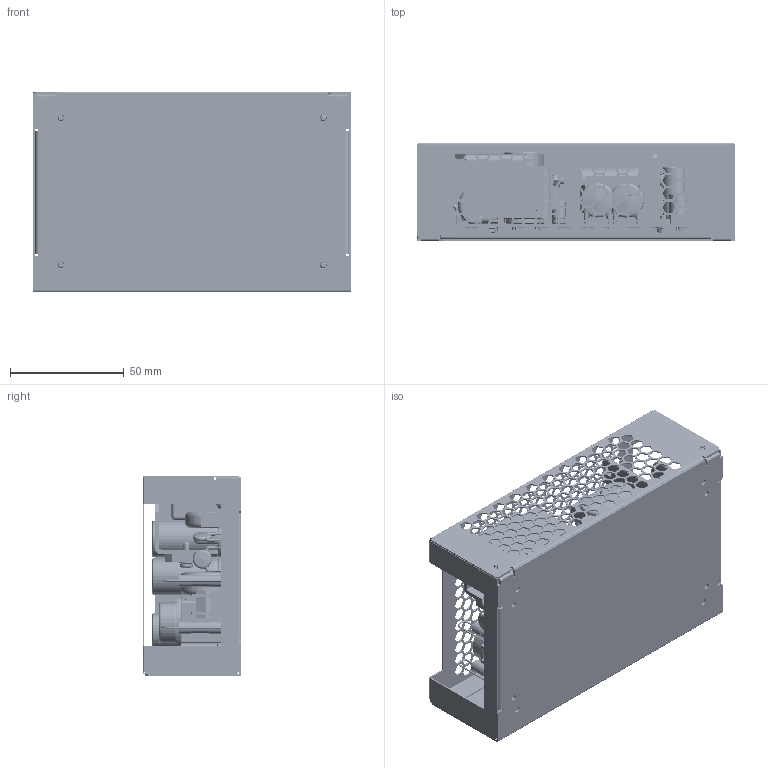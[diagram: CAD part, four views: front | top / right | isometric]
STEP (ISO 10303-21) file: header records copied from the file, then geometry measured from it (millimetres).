
FILE_DESCRIPTION (( 'STEP AP214' ), '1' );
FILE_NAME ('GCS350-C WITH 6 POS CONN.STEP', '2017-10-10T16:31:33', ( '' ), ( '' ), 'SwSTEP 2.0', 'SolidWorks 2016', '' );
FILE_SCHEMA (( 'AUTOMOTIVE_DESIGN' ));
Length unit declared in the file: inch
Products named in the file (45): Screw_Sq Cone_no 4_01_.375"; GCS350-C WITH 6 POS CONN; Capacitor Disc_0.500 D_0.400" C; Inductor Toroid_18mm OD_8.0 mm Width; Bridge Rectifier_GBU6K_Lead trimed; Base choke_.90 D; CAP FILM_17x11x21MM_15LS; Capacitor Elec_16mm D_30mm; Pot_Top adj_Type1_01; Capacitor Film_12x5mm_10 LS; Capacitor Film_18x11mm_15 LS_19mm H; MOV-S10K140E2; CAP FILM_17x5x11MM_15LS; Capacitor Elec_08mm D_20mm H; FUSE-0; Capacitor Elec_06mm D_10mm H; Inductor Toroid_18.0mm OD_7mm Width; Screw_Flat Head Phillips (Metric)_(1314)_M3 x 8; Inductor Toroid_20.0mm OD_10mm Width; Capacitor Disc_0.300 D X .40 LS; Nut_Keps_4-40_Star_01; Faston .25 X .032; Screw_Sq Cone_no 4_01_.250"; Xfmr_GCS150; TO220_2P_01; Screw_Flat Head Phillips (Metric)_(1211)_M2.5 x 4; L4; Conn_JST_S10B-PHDSS-B_Vertical; 10014368A0; 1001720901; CON MLX  .156 3P; Screw_PHP_M3 Sq Cone_01_8mm; 1001720802; Choke Output Rod; Washer_Square_Cone_M3_8mm od_01; 1001720602; Conn_MLX_KK100_Hdr_02P; SCREW_PPH_M3_01_8mm; 10006903A0; Capacitor Elec_10mm D_25mm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
Assembly tree (78 placements, depth 3):
  GCS350-C WITH 6 POS CONN
    10014573B0
    10006903A0
    GCS350 WITH 6 POS CONN
      1001720602
      1001720802
      1001720901
      L4
      Xfmr_GCS150
      Faston .25 X .032
      Capacitor Disc_0.300 D X .40 LS  x3
      Inductor Toroid_20.0mm OD_10mm Width
      Inductor Toroid_18.0mm OD_7mm Width
      FUSE-0  x2
      CAP FILM_17x5x11MM_15LS
      Capacitor Film_18x11mm_15 LS_19mm H  x2
      Pot_Top adj_Type1_01
      CAP FILM_17x11x21MM_15LS
      Bridge Rectifier_GBU6K_Lead trimed
      Capacitor Disc_0.500 D_0.400" C  x4
      Capacitor Elec_08mm D_13mm H  x2
      TO220_3P_01  x5
      Capacitor Elec_10mm D_25mm  x4
      Conn_MLX_KK100_Hdr_02P
      Choke Output Rod
      CON MLX  .156 3P
      Conn_JST_S10B-PHDSS-B_Vertical
      TO220_2P_01
      Screw_Sq Cone_no 4_01_.250"  x2
      Nut_Keps_4-40_Star_01  x6
      Screw_Flat Head Phillips (Metric)_(1314)_M3 x 8  x6
      Capacitor Elec_06mm D_10mm H
      Capacitor Elec_08mm D_20mm H
      MOV-S10K140E2
      Capacitor Film_12x5mm_10 LS
      Capacitor Elec_16mm D_30mm  x3
      Base choke_.90 D
      Inductor Toroid_18mm OD_8.0 mm Width
      Screw_Sq Cone_no 4_01_.375"
      Conn_MLX_KK156_Hdr_06P
    Screw_PHP_M3 Sq Cone_01_8mm  x4
      SCREW_PPH_M3_01_8mm
      Washer_Square_Cone_M3_8mm od_01
    10014368A0
    Screw_Flat Head Phillips (Metric)_(1211)_M2.5 x 4  x4
Bounding box: 139.7 x 43.18 x 88.47 mm (x, y, z)
Volume: 153208.6 mm3; surface area: 181860 mm2
Topology: 117 solids, 136 shells, 7743 faces, 20653 edges, 13381 vertices
Faces by surface type: plane 5330, cylinder 1397, cone 462, torus 286, bspline 238, sphere 30
Entity records: 213699 total; most frequent: CARTESIAN_POINT 37983, ORIENTED_EDGE 33506, DIRECTION 31718, EDGE_CURVE 16753, LINE 13622, VECTOR 13622, VERTEX_POINT 10943, AXIS2_PLACEMENT_3D 9048
